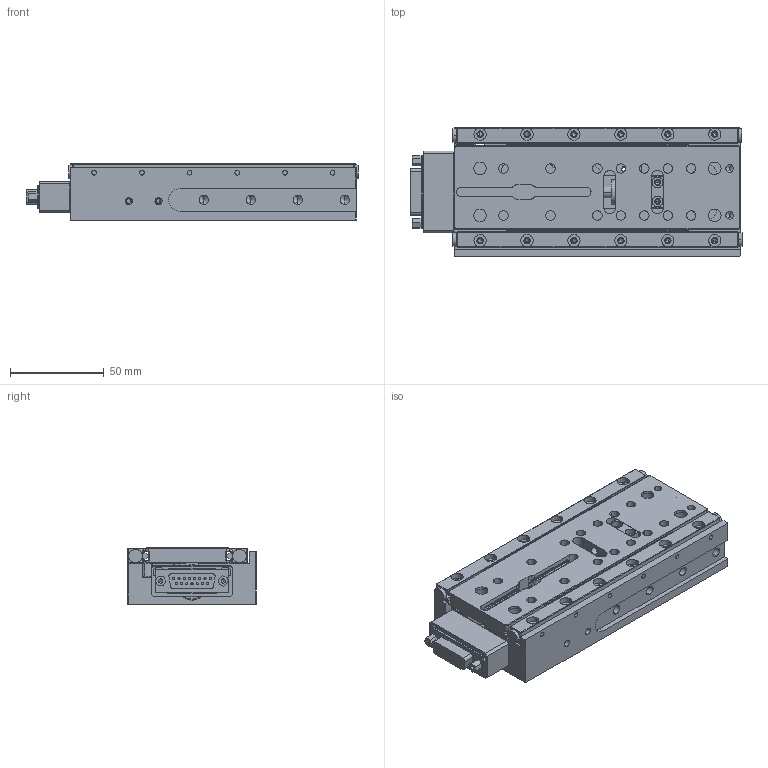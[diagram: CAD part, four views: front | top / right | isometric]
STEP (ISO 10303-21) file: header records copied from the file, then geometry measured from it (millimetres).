
FILE_DESCRIPTION (( 'STEP AP214' ), '1' );
FILE_NAME ('LS-50-xMxCHS (CATALOG MODEL).STEP', '2026-04-22T17:35:11', ( '' ), ( '' ), 'SwSTEP 2.0', 'SolidWorks 2025', '' );
FILE_SCHEMA (( 'AUTOMOTIVE_DESIGN' ));
Length unit declared in the file: inch
Products named in the file (1): LS-50-xMxCHS (CATALOG MODEL)
Bounding box: 176.82 x 68.58 x 30 mm (x, y, z)
Volume: 237533 mm3; surface area: 109152.8 mm2
Topology: 21 solids, 21 shells, 1412 faces, 3563 edges, 2181 vertices
Faces by surface type: cylinder 631, plane 536, cone 220, torus 25
Entity records: 54530 total; most frequent: CARTESIAN_POINT 9781, DIRECTION 7526, ORIENTED_EDGE 6894, EDGE_CURVE 3447, AXIS2_PLACEMENT_3D 2808, VERTEX_POINT 2181, VECTOR 1910, LINE 1910
